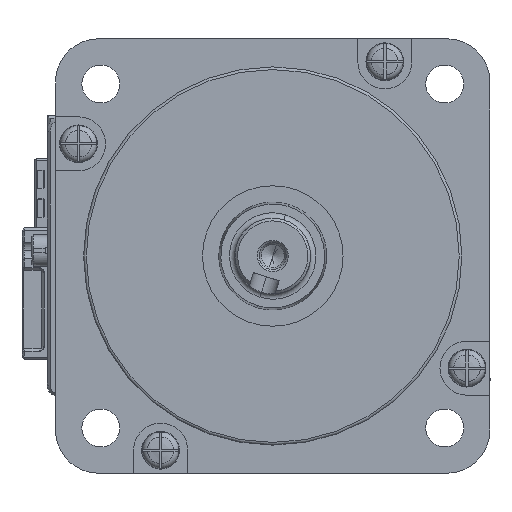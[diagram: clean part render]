
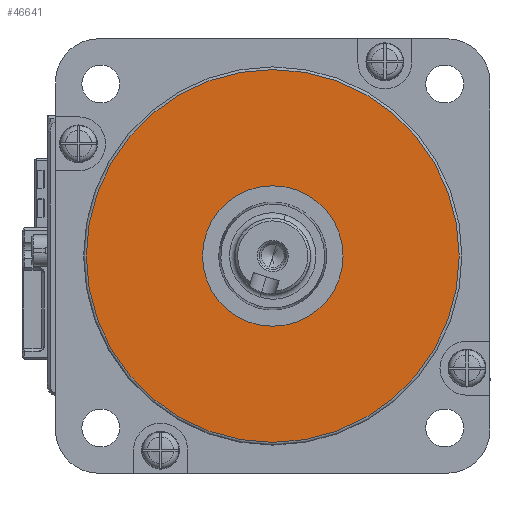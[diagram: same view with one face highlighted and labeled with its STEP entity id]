
A CAD part, left-side view. The second image highlights one B-rep face of the part: STEP entity #46641.
In plain terms, the highlighted planar face has unit normal (-1, 0, 0) as drawn and (0, 0, -1) by its records, which use the part's own axes.
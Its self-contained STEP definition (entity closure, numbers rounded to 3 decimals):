
#6830 = ORIENTED_EDGE ( 'NONE', *, *, #60561, .T. ) ;
#13096 = DIRECTION ( 'NONE',  ( 1., 0., 0. ) ) ;
#13568 = VERTEX_POINT ( 'NONE', #30040 ) ;
#14423 = EDGE_CURVE ( 'NONE', #37150, #37150, #34920, .T. ) ;
#18036 = EDGE_LOOP ( 'NONE', ( #6830 ) ) ;
#19173 = FACE_BOUND ( 'NONE', #62665, .T. ) ;
#19902 = CARTESIAN_POINT ( 'NONE',  ( 0., 0., 0. ) ) ;
#22176 = CARTESIAN_POINT ( 'NONE',  ( 0., 0., 0. ) ) ;
#22358 = AXIS2_PLACEMENT_3D ( 'NONE', #61189, #22945, #28324 ) ;
#22945 = DIRECTION ( 'NONE',  ( 0., 0., 1. ) ) ;
#28324 = DIRECTION ( 'NONE',  ( 1., 0., 0. ) ) ;
#30040 = CARTESIAN_POINT ( 'NONE',  ( 34.499, 0., 0. ) ) ;
#34920 = CIRCLE ( 'NONE', #22358, 13. ) ;
#37087 = DIRECTION ( 'NONE',  ( 1., 0., 0. ) ) ;
#37150 = VERTEX_POINT ( 'NONE', #59893 ) ;
#39110 = AXIS2_PLACEMENT_3D ( 'NONE', #19902, #59233, #37087 ) ;
#39630 = AXIS2_PLACEMENT_3D ( 'NONE', #22176, #62095, #13096 ) ;
#43721 = CIRCLE ( 'NONE', #39110, 34.499 ) ;
#46390 = FACE_OUTER_BOUND ( 'NONE', #18036, .T. ) ;
#46641 = ADVANCED_FACE ( 'NONE', ( #46390, #19173 ), #68167, .F. ) ;
#59233 = DIRECTION ( 'NONE',  ( 0., 0., -1. ) ) ;
#59893 = CARTESIAN_POINT ( 'NONE',  ( 13., 0., 0. ) ) ;
#60506 = ORIENTED_EDGE ( 'NONE', *, *, #14423, .T. ) ;
#60561 = EDGE_CURVE ( 'NONE', #13568, #13568, #43721, .T. ) ;
#61189 = CARTESIAN_POINT ( 'NONE',  ( 0., 0., 0. ) ) ;
#62095 = DIRECTION ( 'NONE',  ( 0., 0., 1. ) ) ;
#62665 = EDGE_LOOP ( 'NONE', ( #60506 ) ) ;
#68167 = PLANE ( 'NONE',  #39630 ) ;
